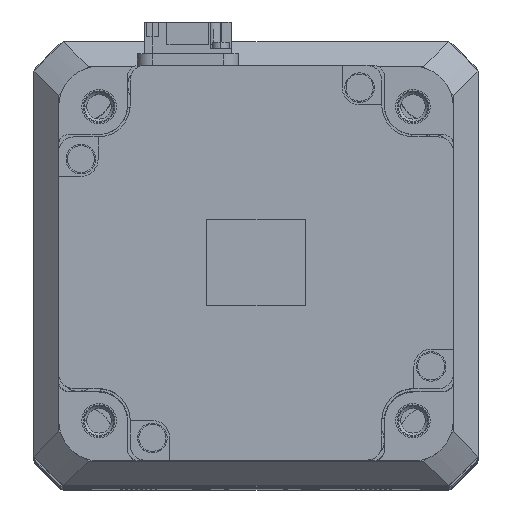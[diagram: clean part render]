
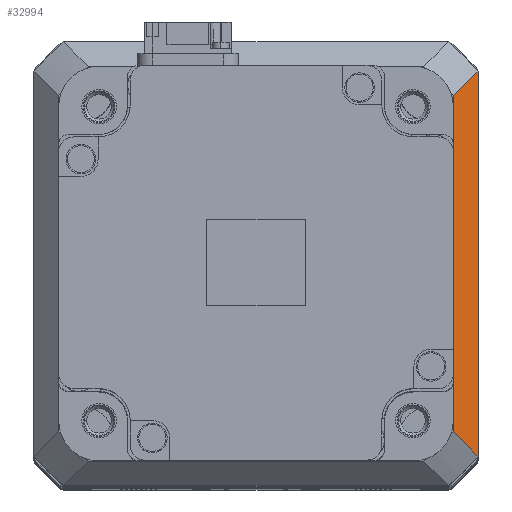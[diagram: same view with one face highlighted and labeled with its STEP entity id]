
A CAD part, top view. The second image highlights one B-rep face of the part: STEP entity #32994.
In plain terms, the highlighted planar face has unit normal (0.707, 0, 0.707).
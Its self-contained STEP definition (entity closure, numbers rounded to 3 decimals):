
#824 = AXIS2_PLACEMENT_3D ( 'NONE', #50869, #51049, #27400 ) ;
#1648 = CARTESIAN_POINT ( 'NONE',  ( 43.333, -37.337, 95.667 ) ) ;
#2751 = ORIENTED_EDGE ( 'NONE', *, *, #43376, .F. ) ;
#2999 = VERTEX_POINT ( 'NONE', #38044 ) ;
#5663 = CARTESIAN_POINT ( 'NONE',  ( 45., -39.003, 94. ) ) ;
#6416 = EDGE_CURVE ( 'NONE', #48909, #2999, #48116, .T. ) ;
#10273 = EDGE_CURVE ( 'NONE', #32137, #48909, #18329, .T. ) ;
#10669 = CARTESIAN_POINT ( 'NONE',  ( 40., 34.004, 99. ) ) ;
#11515 = LINE ( 'NONE', #27259, #31257 ) ;
#14021 = VERTEX_POINT ( 'NONE', #34512 ) ;
#17506 = CARTESIAN_POINT ( 'NONE',  ( 40., -34.004, 99. ) ) ;
#17831 = CARTESIAN_POINT ( 'NONE',  ( 40., 34.004, 99. ) ) ;
#18329 = LINE ( 'NONE', #30423, #47407 ) ;
#22831 = B_SPLINE_CURVE_WITH_KNOTS ( 'NONE', 3,
 ( #5663, #1648, #41212, #17506 ),
 .UNSPECIFIED., .F., .F.,
 ( 4, 4 ),
 ( 0., 0.009 ),
 .UNSPECIFIED. ) ;
#25807 = CARTESIAN_POINT ( 'NONE',  ( 45., 39.003, 94. ) ) ;
#27041 = EDGE_LOOP ( 'NONE', ( #36190, #41385, #50373, #2751 ) ) ;
#27259 = CARTESIAN_POINT ( 'NONE',  ( 45., -24., 94. ) ) ;
#27400 = DIRECTION ( 'NONE',  ( 0.707, 0., -0.707 ) ) ;
#30423 = CARTESIAN_POINT ( 'NONE',  ( 40., 0., 99. ) ) ;
#31257 = VECTOR ( 'NONE', #50890, 1000. ) ;
#32137 = VERTEX_POINT ( 'NONE', #33183 ) ;
#32994 = ADVANCED_FACE ( 'NONE', ( #37771 ), #35198, .F. ) ;
#33183 = CARTESIAN_POINT ( 'NONE',  ( 40., -34.004, 99. ) ) ;
#34512 = CARTESIAN_POINT ( 'NONE',  ( 45., -39.003, 94. ) ) ;
#34556 = EDGE_CURVE ( 'NONE', #14021, #32137, #22831, .T. ) ;
#35198 = PLANE ( 'NONE',  #824 ) ;
#36190 = ORIENTED_EDGE ( 'NONE', *, *, #6416, .F. ) ;
#37771 = FACE_OUTER_BOUND ( 'NONE', #27041, .T. ) ;
#38044 = CARTESIAN_POINT ( 'NONE',  ( 45., 39.003, 94. ) ) ;
#38381 = DIRECTION ( 'NONE',  ( 0., 1., 0. ) ) ;
#41212 = CARTESIAN_POINT ( 'NONE',  ( 41.666, -35.671, 97.334 ) ) ;
#41385 = ORIENTED_EDGE ( 'NONE', *, *, #10273, .F. ) ;
#43376 = EDGE_CURVE ( 'NONE', #2999, #14021, #11515, .T. ) ;
#45495 = CARTESIAN_POINT ( 'NONE',  ( 41.666, 35.671, 97.334 ) ) ;
#47407 = VECTOR ( 'NONE', #38381, 1000. ) ;
#48116 = B_SPLINE_CURVE_WITH_KNOTS ( 'NONE', 3,
 ( #17831, #45495, #49470, #25807 ),
 .UNSPECIFIED., .F., .F.,
 ( 4, 4 ),
 ( 0., 0.009 ),
 .UNSPECIFIED. ) ;
#48909 = VERTEX_POINT ( 'NONE', #10669 ) ;
#49470 = CARTESIAN_POINT ( 'NONE',  ( 43.333, 37.337, 95.667 ) ) ;
#50373 = ORIENTED_EDGE ( 'NONE', *, *, #34556, .F. ) ;
#50869 = CARTESIAN_POINT ( 'NONE',  ( 42.5, 0., 96.5 ) ) ;
#50890 = DIRECTION ( 'NONE',  ( 0., -1., 0. ) ) ;
#51049 = DIRECTION ( 'NONE',  ( -0.707, 0., -0.707 ) ) ;
